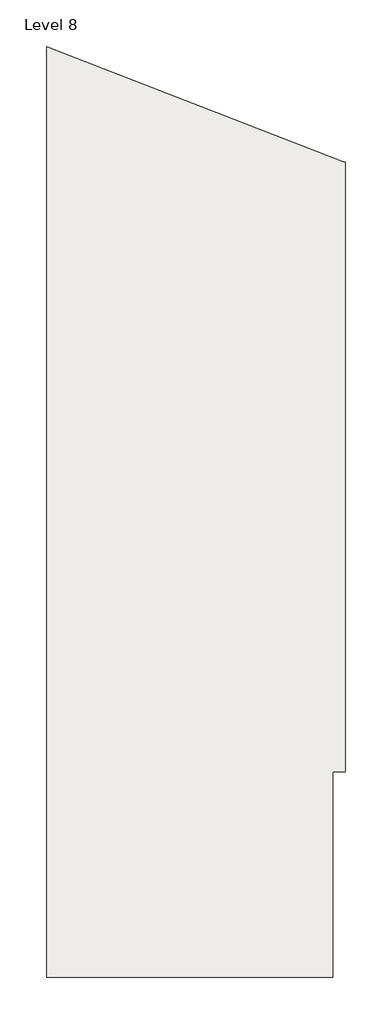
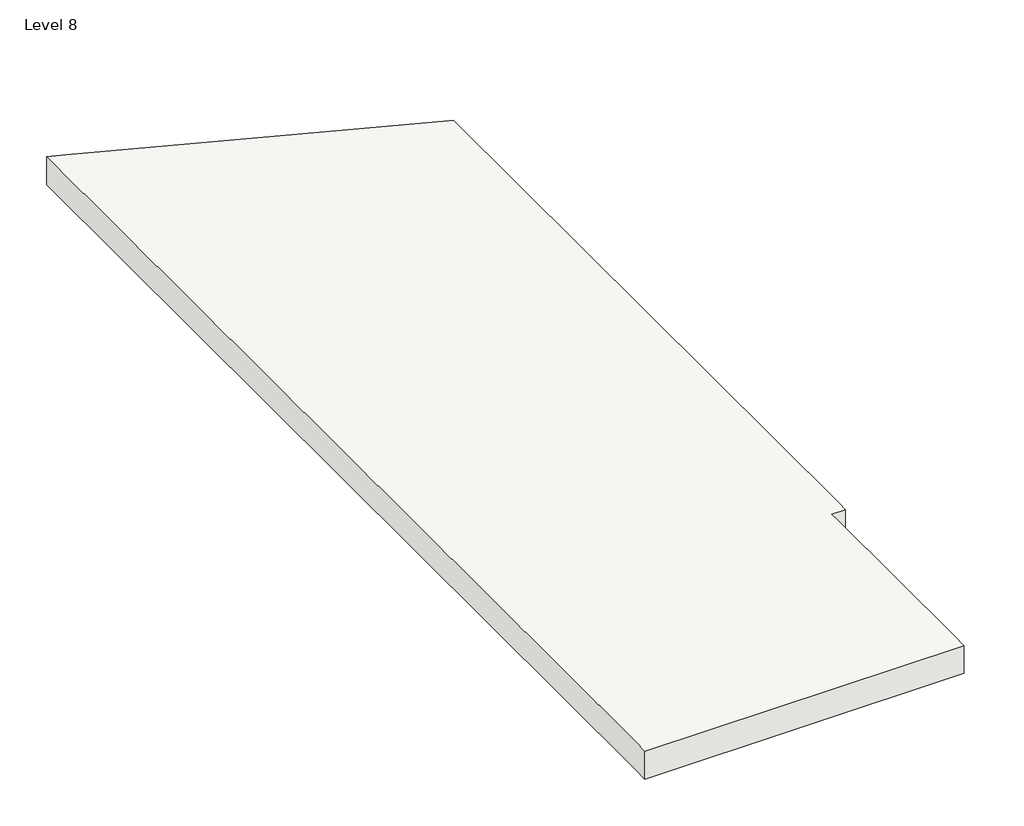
# One storey: 1 slab.
"""IFC4 building model written with IfcOpenShell, lengths in millimetres."""

from ifc_helpers import new_model, si_unit, origin, place, context, project, spatial, faceted_brep, element, save

model = new_model("IFC4")

# Units and contexts
model_context = context("Model", 3, world=origin())
ifc_project = project(units=[si_unit("LENGTHUNIT", "METRE", prefix="MILLI")], contexts=[model_context])

# Site, building, storey
site = spatial("IfcSite", under=ifc_project)
building = spatial("IfcBuilding", under=site)
storey = spatial("IfcBuildingStorey", under=building, Name="Level 8", Elevation=28000.0)

# Slab
placement = place(None, origin())
element("IfcSlab", 1, ObjectType="Standard Timber-sang Finish 2", at=placement, inside=storey, context=model_context, shape_type="Brep", body=[
    faceted_brep([(2561.8607589, 8439.6937664, 27759.0), (2450.0654712, 8439.6937664, 27759.0), (2450.0654712, 8359.6937664, 27759.0), (2450.0654712, 6699.689555, 27759.0), (2450.0654712, 6569.689555, 27759.0), (-152.4112458, 6569.689555, 27759.0), (-152.4112458, 6699.689555, 27759.0), (-152.4112458, 15028.6260346, 27759.0), (-22.4112458, 14978.1927371, 27759.0), (2531.8607589, 13987.2668918, 27759.0), (2561.8607589, 13975.6284385, 27759.0), (2561.8607589, 8519.6937664, 27759.0), (2561.8607589, 8439.6937664, 28000.0), (2561.8607589, 8519.6937664, 28000.0), (2561.8607589, 13975.6284385, 28000.0), (2531.8607589, 13987.2668918, 28000.0), (-22.4112458, 14978.1927371, 28000.0), (-152.4112458, 15028.6260346, 28000.0), (-152.4112458, 6699.689555, 28000.0), (-152.4112458, 6569.689555, 28000.0), (2450.0654712, 6569.689555, 28000.0), (2450.0654712, 6699.689555, 28000.0), (2450.0654712, 8359.6937664, 28000.0), (2450.0654712, 8439.6937664, 28000.0)], [[[0, 1, 2, 3, 4, 5, 6, 7, 8, 9, 10, 11]], [[12, 13, 14, 15, 16, 17, 18, 19, 20, 21, 22, 23]], [[1, 0, 12, 23]], [[4, 3, 2, 1, 23, 22, 21, 20]], [[5, 4, 20, 19]], [[7, 6, 5, 19, 18, 17]], [[10, 9, 8, 7, 17, 16, 15, 14]], [[0, 11, 10, 14, 13, 12]]]),
])

save(model, "model.ifc")
